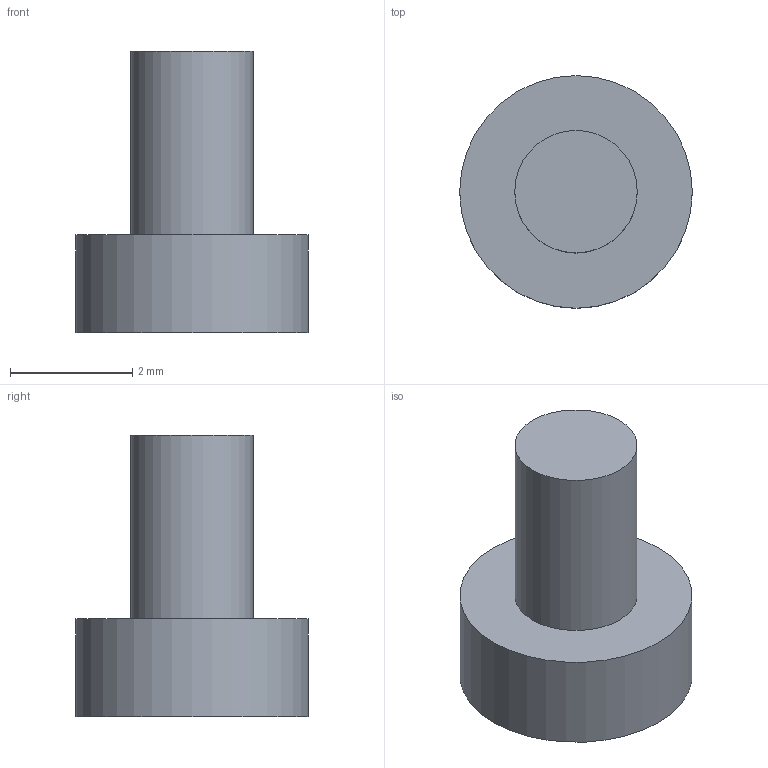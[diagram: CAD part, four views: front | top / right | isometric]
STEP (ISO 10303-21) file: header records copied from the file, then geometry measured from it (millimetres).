
FILE_DESCRIPTION(('Open CASCADE Model'),'2;1');
FILE_NAME('Open CASCADE Shape Model','2026-10-17T01:37:18',('Author'),( 'Open CASCADE'),'Open CASCADE STEP processor 7.9','Open CASCADE 7.9' ,'Unknown');
FILE_SCHEMA(('AUTOMOTIVE_DESIGN { 1 0 10303 214 1 1 1 1 }'));
Length unit declared in the file: millimetre
Products named in the file (1): Open CASCADE STEP translator 7.9 10
Bounding box: 3.8 x 3.8 x 4.6 mm (x, y, z)
Volume: 27.6 mm3; surface area: 60.6 mm2
Topology: 1 solids, 1 shells, 5 faces, 6 edges, 4 vertices
Faces by surface type: plane 3, cylinder 2
Full cylindrical faces by diameter (mm): 2 x1, 3.8 x1
Entity records: 192 total; most frequent: DIRECTION 34, CARTESIAN_POINT 28, ORIENTED_EDGE 12, PCURVE 12, DEFINITIONAL_REPRESENTATION 12, AXIS2_PLACEMENT_3D 10, LINE 10, VECTOR 10
